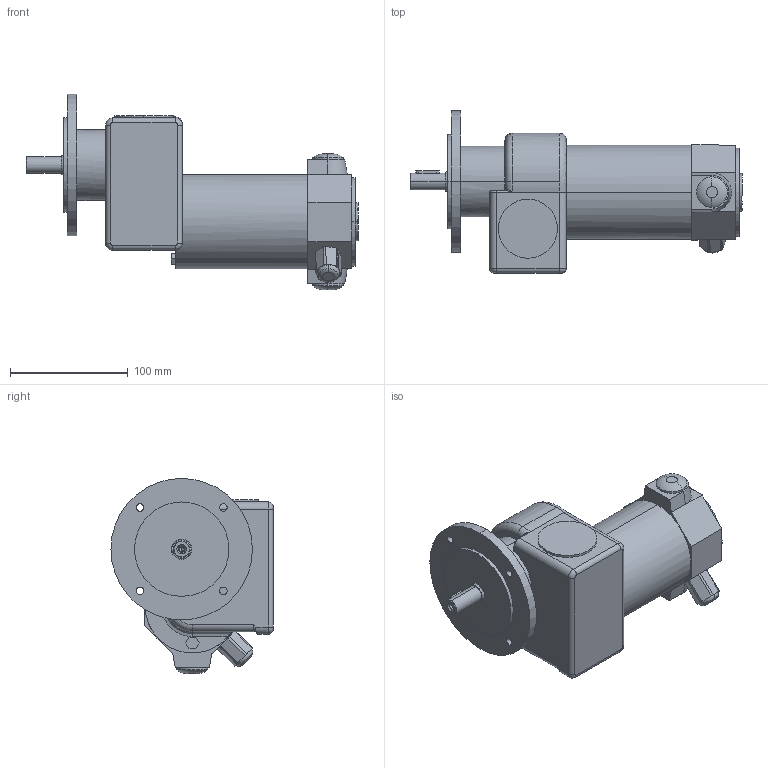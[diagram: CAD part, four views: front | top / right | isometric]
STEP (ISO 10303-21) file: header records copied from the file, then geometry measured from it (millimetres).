
FILE_DESCRIPTION(('OneSpaceDesigner STEP Export'),'2;1');
FILE_NAME('EPG12_GF24.stp','2008-07-16T15:48:53',(''),(''),'OneSpace Designer STEP processor (Jan. 2003) for AP214(CD)(Solid Model)','OneSpace Designer 12.01D 09-Jul-2004 (C) CoCreate Software GmbH','');
FILE_SCHEMA(('AUTOMOTIVE_DESIGN_CC2 {1 2 10303 214 -1 1 5 1}'));
Length unit declared in the file: millimetre
Products named in the file (2): EPG12_GF24
Assembly tree (1 placements, depth 2):
  EPG12_GF24
    EPG12_GF24
Bounding box: 281.5 x 137.5 x 165.5 mm (x, y, z)
Volume: 1701149.3 mm3; surface area: 121729.2 mm2
Topology: 1 solids, 1 shells, 164 faces, 405 edges, 257 vertices
Faces by surface type: plane 64, cylinder 62, torus 16, bspline 13, cone 8, extrusion 1
Entity records: 10117 total; most frequent: CARTESIAN_POINT 6510, ORIENTED_EDGE 804, DIRECTION 639, EDGE_CURVE 402, VERTEX_POINT 257, AXIS2_PLACEMENT_3D 220, VECTOR 199, LINE 198
